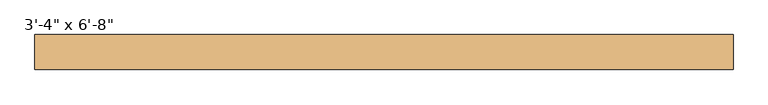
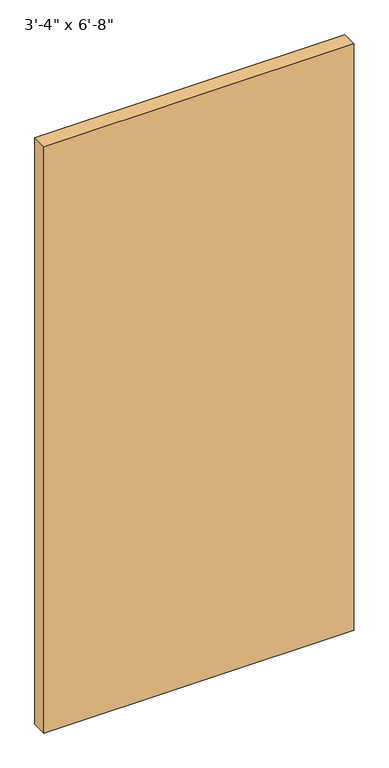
"""IFC4 building model written with IfcOpenShell, lengths in millimetres: door geometry."""

from ifc_helpers import new_model, si_unit, origin, origin_with_axes, place, context, project, spatial, polyline, outline, extrude, source, transform, mapped, element, save


def door_3e174ebe(model_context):
    return source(origin(), model_context, "Body", "SweptSolid", [
        extrude(outline(polyline([(508.0, -31.5515625), (508.0, -82.55), (-508.0, -82.55), (-508.0, -31.5515625), (508.0, -31.5515625)])), origin_with_axes(), (0.0, 0.0, 1.0), 2032.0),
    ])


if __name__ == "__main__":
    model = new_model("IFC4")
    model_context = context("Model", 3, world=origin())
    ifc_project = project(units=[si_unit("LENGTHUNIT", "METRE", prefix="MILLI")], contexts=[model_context])
    site = spatial("IfcSite", under=ifc_project)
    building = spatial("IfcBuilding", under=site)
    placement = place(None, origin())
    door_shape = door_3e174ebe(model_context)
    element("IfcDoor", 1, ObjectType="Planitar - Single Door_Flush Panel : 3'-4\" x 6'-8\"", at=placement, inside=building, context=model_context, shape_type="MappedRepresentation", body=[
        mapped(door_shape, transform((0.0, 0.0, 0.0), x_axis=(1.0, 0.0, 0.0), y_axis=(0.0, 1.0, 0.0), z_axis=(0.0, 0.0, 1.0))),
    ])
    save(model, "model.ifc")
